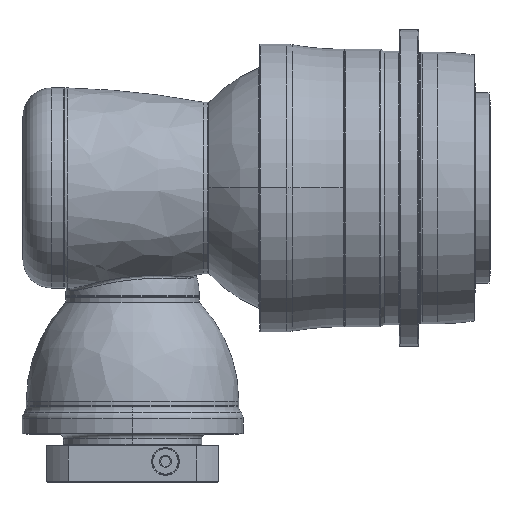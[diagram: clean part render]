
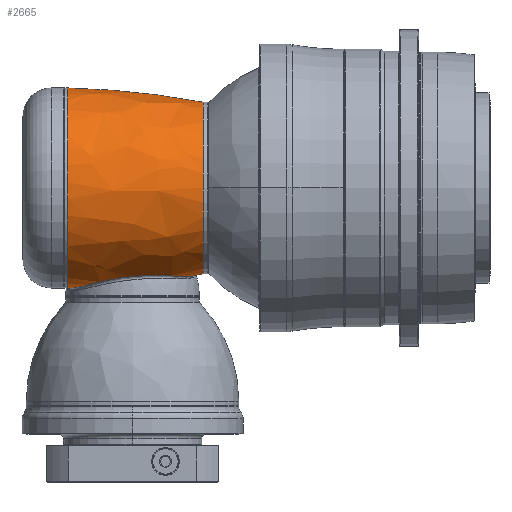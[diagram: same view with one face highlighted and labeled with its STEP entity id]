
A CAD part, top view. The second image highlights one B-rep face of the part: STEP entity #2665.
In plain terms, the highlighted free-form (B-spline) face has degree [3, 3] with [7, 4] control points.
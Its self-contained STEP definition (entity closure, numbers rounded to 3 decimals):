
#344=CARTESIAN_POINT('',(-91.246,794.7,
0.));
#345=DIRECTION('',(0.,0.,-1.));
#346=DIRECTION('',(0.184,-0.983,0.));
#347=AXIS2_PLACEMENT_3D('',#344,#345,#346);
#354=CARTESIAN_POINT('',(-91.246,-794.7,
0.));
#355=DIRECTION('',(0.,0.,1.));
#356=DIRECTION('',(0.184,0.983,0.));
#357=AXIS2_PLACEMENT_3D('',#354,#355,#356);
#498=CARTESIAN_POINT('',(-68.,0.,0.));
#499=DIRECTION('',(1.,0.,0.));
#500=DIRECTION('',(0.,1.,0.));
#501=AXIS2_PLACEMENT_3D('',#498,#499,#500);
#556=CARTESIAN_POINT('',(-68.,-104.809,
-6.332));
#557=CARTESIAN_POINT('',(-67.699,-104.853,
-5.469));
#558=CARTESIAN_POINT('',(-67.058,-104.919,
-3.747));
#559=CARTESIAN_POINT('',(-65.979,-104.949,
-1.182));
#560=CARTESIAN_POINT('',(-64.779,-104.913,1.361));
#561=CARTESIAN_POINT('',(-63.46,-104.81,3.876));
#562=CARTESIAN_POINT('',(-62.018,-104.643,6.358));
#563=CARTESIAN_POINT('',(-60.454,-104.413,8.8));
#564=CARTESIAN_POINT('',(-58.767,-104.123,11.196));
#565=CARTESIAN_POINT('',(-56.955,-103.777,13.54));
#566=CARTESIAN_POINT('',(-55.021,-103.376,15.824));
#567=CARTESIAN_POINT('',(-52.965,-102.926,18.04));
#568=CARTESIAN_POINT('',(-50.789,-102.43,20.179));
#569=CARTESIAN_POINT('',(-48.495,-101.894,22.235));
#570=CARTESIAN_POINT('',(-46.086,-101.324,24.2));
#571=CARTESIAN_POINT('',(-43.566,-100.725,26.067));
#572=CARTESIAN_POINT('',(-40.936,-100.103,27.83));
#573=CARTESIAN_POINT('',(-38.211,-99.467,29.477));
#574=CARTESIAN_POINT('',(-35.393,-98.822,31.003));
#575=CARTESIAN_POINT('',(-32.49,-98.176,32.403));
#576=CARTESIAN_POINT('',(-29.509,-97.536,33.674));
#577=CARTESIAN_POINT('',(-26.456,-96.907,34.81));
#578=CARTESIAN_POINT('',(-23.342,-96.297,35.808));
#579=CARTESIAN_POINT('',(-20.164,-95.709,36.668));
#580=CARTESIAN_POINT('',(-16.952,-95.152,37.381));
#581=CARTESIAN_POINT('',(-13.718,-94.632,37.948));
#582=CARTESIAN_POINT('',(-10.469,-94.152,38.369));
#583=CARTESIAN_POINT('',(-7.204,-93.715,38.644));
#584=CARTESIAN_POINT('',(-3.926,-93.322,38.774));
#585=CARTESIAN_POINT('',(-0.635,-92.973,
38.76));
#586=CARTESIAN_POINT('',(2.671,-92.67,38.602));
#587=CARTESIAN_POINT('',(5.955,-92.416,38.3));
#588=CARTESIAN_POINT('',(9.212,-92.21,37.857));
#589=CARTESIAN_POINT('',(12.433,-92.049,37.276));
#590=CARTESIAN_POINT('',(15.613,-91.933,36.561));
#591=CARTESIAN_POINT('',(18.745,-91.859,35.713));
#592=CARTESIAN_POINT('',(21.823,-91.822,34.735));
#593=CARTESIAN_POINT('',(24.839,-91.821,33.632));
#594=CARTESIAN_POINT('',(27.789,-91.849,32.406));
#595=CARTESIAN_POINT('',(30.666,-91.903,31.061));
#596=CARTESIAN_POINT('',(33.465,-91.977,29.6));
#597=CARTESIAN_POINT('',(36.182,-92.068,28.028));
#598=CARTESIAN_POINT('',(38.811,-92.168,26.348));
#599=CARTESIAN_POINT('',(41.351,-92.273,24.562));
#600=CARTESIAN_POINT('',(43.795,-92.376,22.676));
#601=CARTESIAN_POINT('',(46.137,-92.473,20.696));
#602=CARTESIAN_POINT('',(48.374,-92.557,18.627));
#603=CARTESIAN_POINT('',(50.502,-92.623,16.474));
#604=CARTESIAN_POINT('',(52.52,-92.666,14.239));
#605=CARTESIAN_POINT('',(54.423,-92.679,11.93));
#606=CARTESIAN_POINT('',(56.208,-92.659,9.553));
#607=CARTESIAN_POINT('',(57.868,-92.599,7.119));
#608=CARTESIAN_POINT('',(59.354,-92.501,4.715));
#609=CARTESIAN_POINT('',(60.681,-92.365,2.348));
#610=CARTESIAN_POINT('',(61.476,-92.248,0.78));
#611=CARTESIAN_POINT('',(61.852,-92.183,
0.));
#613=CARTESIAN_POINT('',(74.,0.,0.));
#614=DIRECTION('',(1.,0.,0.));
#615=DIRECTION('',(0.,1.,0.));
#616=AXIS2_PLACEMENT_3D('',#613,#614,#615);
#1417=CARTESIAN_POINT('',(74.,90.,0.));
#1418=CARTESIAN_POINT('',(-68.,105.,0.));
#1419=VERTEX_POINT('',#1417);
#1420=VERTEX_POINT('',#1418);
#1421=CARTESIAN_POINT('',(74.,-90.,0.));
#1422=VERTEX_POINT('',#1421);
#1474=VERTEX_POINT('',#556);
#1475=VERTEX_POINT('',#611);
#2628=CARTESIAN_POINT('',(-70.858,104.854,
-6.724));
#2629=CARTESIAN_POINT('',(-21.262,103.732,
-6.652));
#2630=CARTESIAN_POINT('',(28.073,98.532,-6.318));
#2631=CARTESIAN_POINT('',(76.809,89.287,-5.726));
#2632=CARTESIAN_POINT('',(-70.858,109.093,59.389));
#2633=CARTESIAN_POINT('',(-21.262,107.927,58.753));
#2634=CARTESIAN_POINT('',(28.073,102.516,55.808));
#2635=CARTESIAN_POINT('',(76.809,92.897,50.572));
#2636=CARTESIAN_POINT('',(-70.858,63.049,107.02));
#2637=CARTESIAN_POINT('',(-21.262,62.374,105.875));
#2638=CARTESIAN_POINT('',(28.073,59.247,100.567));
#2639=CARTESIAN_POINT('',(76.809,53.689,91.132));
#2640=CARTESIAN_POINT('',(-70.858,-3.169,
105.021));
#2641=CARTESIAN_POINT('',(-21.262,-3.136,
103.898));
#2642=CARTESIAN_POINT('',(28.073,-2.978,98.689));
#2643=CARTESIAN_POINT('',(76.809,-2.699,89.43));
#2644=CARTESIAN_POINT('',(-70.858,-69.388,
103.023));
#2645=CARTESIAN_POINT('',(-21.262,-68.645,
101.921));
#2646=CARTESIAN_POINT('',(28.073,-65.204,96.811));
#2647=CARTESIAN_POINT('',(76.809,-59.086,87.728));
#2648=CARTESIAN_POINT('',(-70.858,-112.476,
52.702));
#2649=CARTESIAN_POINT('',(-21.262,-111.273,
52.138));
#2650=CARTESIAN_POINT('',(28.073,-105.694,49.524));
#2651=CARTESIAN_POINT('',(76.809,-95.778,44.878));
#2652=CARTESIAN_POINT('',(-70.858,-104.258,
-13.035));
#2653=CARTESIAN_POINT('',(-21.262,-103.142,
-12.895));
#2654=CARTESIAN_POINT('',(28.073,-97.971,
-12.249));
#2655=CARTESIAN_POINT('',(76.809,-88.779,
-11.099));
#2656=(BOUNDED_SURFACE()B_SPLINE_SURFACE(3,3,((#2628,#2629,#2630,#2631),(#2632,
#2633,#2634,#2635),(#2636,#2637,#2638,#2639),(#2640,#2641,#2642,#2643),(#2644,
#2645,#2646,#2647),(#2648,#2649,#2650,#2651),(#2652,#2653,#2654,#2655)),
.UNSPECIFIED.,.F.,.F.,.F.)B_SPLINE_SURFACE_WITH_KNOTS((4,3,4),(4,4),(0.,1.,
2.),(0.,1.),.UNSPECIFIED.)GEOMETRIC_REPRESENTATION_ITEM()RATIONAL_B_SPLINE_SURFACE(((1.197,1.195,1.195,1.197),(
0.936,0.934,0.934,0.936),(
0.936,0.934,0.934,0.936),(
1.197,1.195,1.195,1.197),(
0.936,0.934,0.934,0.936),(
0.936,0.934,0.934,0.936),(
1.197,1.195,1.195,1.197)))REPRESENTATION_ITEM('')SURFACE());
#2657=ORIENTED_EDGE('',*,*,#2400,.F.);
#2658=ORIENTED_EDGE('',*,*,#2609,.F.);
#2659=ORIENTED_EDGE('',*,*,#2057,.F.);
#2661=ORIENTED_EDGE('',*,*,#2660,.T.);
#2662=ORIENTED_EDGE('',*,*,#2053,.T.);
#2663=EDGE_LOOP('',(#2657,#2658,#2659,#2661,#2662));
#2664=FACE_OUTER_BOUND('',#2663,.F.);
#2665=ADVANCED_FACE('',(#2664),#2656,.T.);
#348=CIRCLE('',#347,900.);
#358=CIRCLE('',#357,900.);
#502=CIRCLE('',#501,105.);
#612=B_SPLINE_CURVE_WITH_KNOTS('',3,(#556,#557,#558,#559,#560,#561,#562,#563,
#564,#565,#566,#567,#568,#569,#570,#571,#572,#573,#574,#575,#576,#577,#578,#579,
#580,#581,#582,#583,#584,#585,#586,#587,#588,#589,#590,#591,#592,#593,#594,#595,
#596,#597,#598,#599,#600,#601,#602,#603,#604,#605,#606,#607,#608,#609,#610,
#611),.UNSPECIFIED.,.F.,.F.,(4,1,1,1,1,1,1,1,1,1,1,1,1,1,1,1,1,1,1,1,1,1,1,1,1,
1,1,1,1,1,1,1,1,1,1,1,1,1,1,1,1,1,1,1,1,1,1,1,1,1,1,1,1,4),(0.,
0.019,0.038,0.057,0.075,
0.094,0.113,0.132,0.151,
0.17,0.189,0.208,0.226,
0.245,0.264,0.283,0.302,
0.321,0.34,0.358,0.377,
0.396,0.415,0.434,0.453,
0.472,0.491,0.509,0.528,
0.547,0.566,0.585,0.604,
0.623,0.642,0.66,0.679,
0.698,0.717,0.736,0.755,
0.774,0.792,0.811,0.83,
0.849,0.868,0.887,0.906,
0.925,0.943,0.962,0.981,1.),
.UNSPECIFIED.);
#617=CIRCLE('',#616,90.);
#2053=EDGE_CURVE('',#1422,#1475,#348,.T.);
#2057=EDGE_CURVE('',#1419,#1420,#358,.T.);
#2400=EDGE_CURVE('',#1474,#1475,#612,.T.);
#2609=EDGE_CURVE('',#1420,#1474,#502,.T.);
#2660=EDGE_CURVE('',#1419,#1422,#617,.T.);
